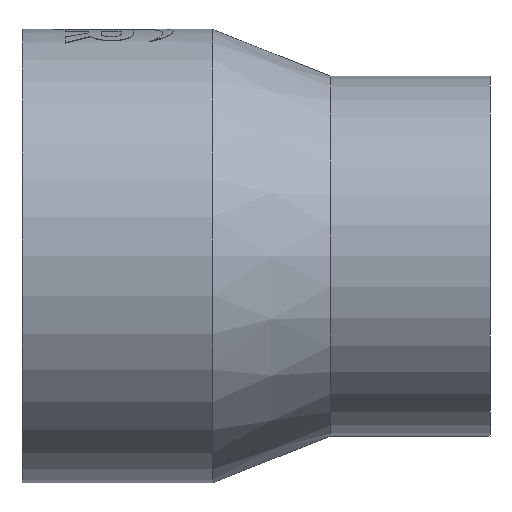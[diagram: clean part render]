
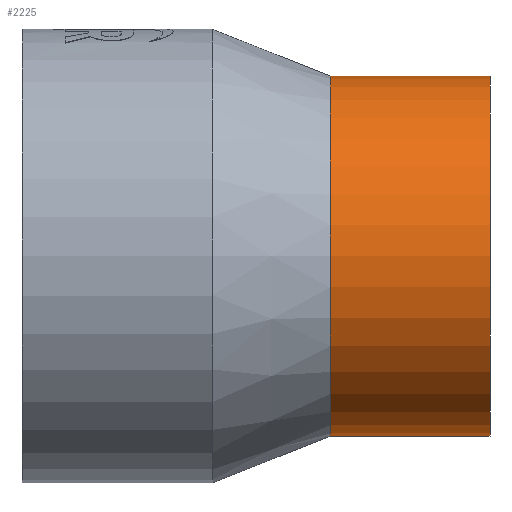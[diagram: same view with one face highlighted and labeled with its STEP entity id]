
A CAD part, front view. The second image highlights one B-rep face of the part: STEP entity #2225.
In plain terms, the highlighted cylindrical face has radius 250 mm (diameter 500 mm), a partial arc.
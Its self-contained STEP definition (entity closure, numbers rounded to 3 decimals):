
#342 = CIRCLE ( 'NONE', #2974, 250. ) ;
#788 = CARTESIAN_POINT ( 'NONE',  ( 428., 0., -250. ) ) ;
#899 = EDGE_CURVE ( 'NONE', #3062, #1976, #342, .T. ) ;
#1024 = EDGE_CURVE ( 'NONE', #1189, #3062, #1633, .T. ) ;
#1040 = FACE_OUTER_BOUND ( 'NONE', #1231, .T. ) ;
#1180 = EDGE_CURVE ( 'NONE', #1189, #3594, #2899, .T. ) ;
#1189 = VERTEX_POINT ( 'NONE', #1792 ) ;
#1208 = EDGE_CURVE ( 'NONE', #3594, #1976, #2387, .T. ) ;
#1231 = EDGE_LOOP ( 'NONE', ( #1340, #1341, #1349, #1353 ) ) ;
#1340 = ORIENTED_EDGE ( 'NONE', *, *, #1024, .F. ) ;
#1341 = ORIENTED_EDGE ( 'NONE', *, *, #1180, .T. ) ;
#1349 = ORIENTED_EDGE ( 'NONE', *, *, #1208, .T. ) ;
#1353 = ORIENTED_EDGE ( 'NONE', *, *, #899, .F. ) ;
#1494 = VECTOR ( 'NONE', #1735, 1000. ) ;
#1633 = LINE ( 'NONE', #2781, #2563 ) ;
#1682 = DIRECTION ( 'NONE',  ( 0., 0., 1. ) ) ;
#1695 = DIRECTION ( 'NONE',  ( -1., 0., 0. ) ) ;
#1708 = CARTESIAN_POINT ( 'NONE',  ( 650., 0., 0. ) ) ;
#1728 = CARTESIAN_POINT ( 'NONE',  ( 650., 0., 250. ) ) ;
#1735 = DIRECTION ( 'NONE',  ( -1., 0., 0. ) ) ;
#1754 = CARTESIAN_POINT ( 'NONE',  ( -0.3, 0., 250. ) ) ;
#1792 = CARTESIAN_POINT ( 'NONE',  ( 650., 0., -250. ) ) ;
#1923 = AXIS2_PLACEMENT_3D ( 'NONE', #3181, #3044, #2927 ) ;
#1976 = VERTEX_POINT ( 'NONE', #3253 ) ;
#2225 = ADVANCED_FACE ( 'NONE', ( #1040 ), #3153, .T. ) ;
#2387 = LINE ( 'NONE', #1754, #1494 ) ;
#2563 = VECTOR ( 'NONE', #2947, 1000. ) ;
#2688 = AXIS2_PLACEMENT_3D ( 'NONE', #1708, #1695, #1682 ) ;
#2781 = CARTESIAN_POINT ( 'NONE',  ( -0.3, 0., -250. ) ) ;
#2899 = CIRCLE ( 'NONE', #2688, 250. ) ;
#2927 = DIRECTION ( 'NONE',  ( 0., 0., 1. ) ) ;
#2947 = DIRECTION ( 'NONE',  ( -1., 0., 0. ) ) ;
#2974 = AXIS2_PLACEMENT_3D ( 'NONE', #3212, #3197, #3189 ) ;
#3044 = DIRECTION ( 'NONE',  ( -1., 0., 0. ) ) ;
#3062 = VERTEX_POINT ( 'NONE', #788 ) ;
#3153 = CYLINDRICAL_SURFACE ( 'NONE', #1923, 250. ) ;
#3181 = CARTESIAN_POINT ( 'NONE',  ( -0.3, 0., 0. ) ) ;
#3189 = DIRECTION ( 'NONE',  ( 0., 0., 1. ) ) ;
#3197 = DIRECTION ( 'NONE',  ( -1., 0., 0. ) ) ;
#3212 = CARTESIAN_POINT ( 'NONE',  ( 428., 0., 0. ) ) ;
#3253 = CARTESIAN_POINT ( 'NONE',  ( 428., 0., 250. ) ) ;
#3594 = VERTEX_POINT ( 'NONE', #1728 ) ;
